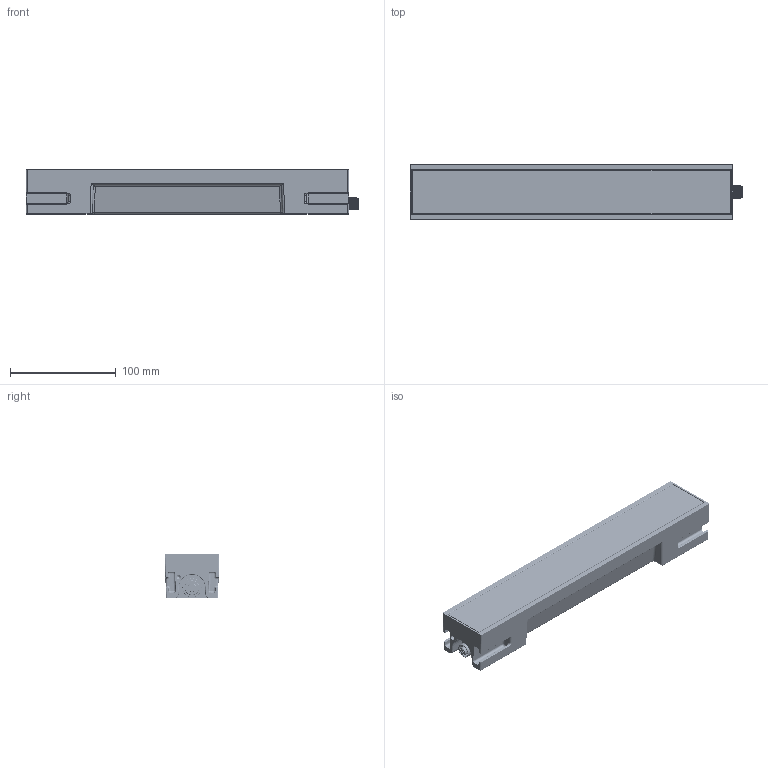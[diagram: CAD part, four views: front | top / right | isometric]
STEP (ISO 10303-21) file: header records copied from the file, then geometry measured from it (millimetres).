
FILE_DESCRIPTION (( 'STEP AP214' ), '1' );
FILE_NAME ('LXE300.STEP', '2017-10-20T19:47:51', ( '' ), ( '' ), 'SwSTEP 2.0', 'SolidWorks 2017', '' );
FILE_SCHEMA (( 'AUTOMOTIVE_DESIGN' ));
Length unit declared in the file: millimetre
Products named in the file (12): 225457; PCB-00507-02_B; LXE300-Casting_ALUM; locking connector female; LXE300; Tina2-OSL-Assy-Glue; LXE LENS; LXE Male Connector; PCB-00507-02_A; 225256; 92000A103_92000A103; PCB-LED
Assembly tree (27 placements, depth 2):
  LXE300
    LXE300-Casting_ALUM
    PCB-LED
    Tina2-OSL-Assy-Glue  x12
    92000A103_92000A103  x6
    225457
    225256
    PCB-00507-02_A
    PCB-00507-02_B
    LXE LENS
    locking connector female
    LXE Male Connector
Bounding box: 313.8 x 52 x 42.2 mm (x, y, z)
Volume: 274636.2 mm3; surface area: 175932.1 mm2
Topology: 39 solids, 39 shells, 5019 faces, 13434 edges, 8509 vertices
Faces by surface type: plane 1593, cylinder 1445, bspline 1209, cone 571, torus 116, sphere 85
Entity records: 90134 total; most frequent: CARTESIAN_POINT 24980, ORIENTED_EDGE 10412, DIRECTION 9330, EDGE_CURVE 5206, AXIS2_PLACEMENT_3D 3330, VERTEX_POINT 3261, LINE 2670, VECTOR 2670
